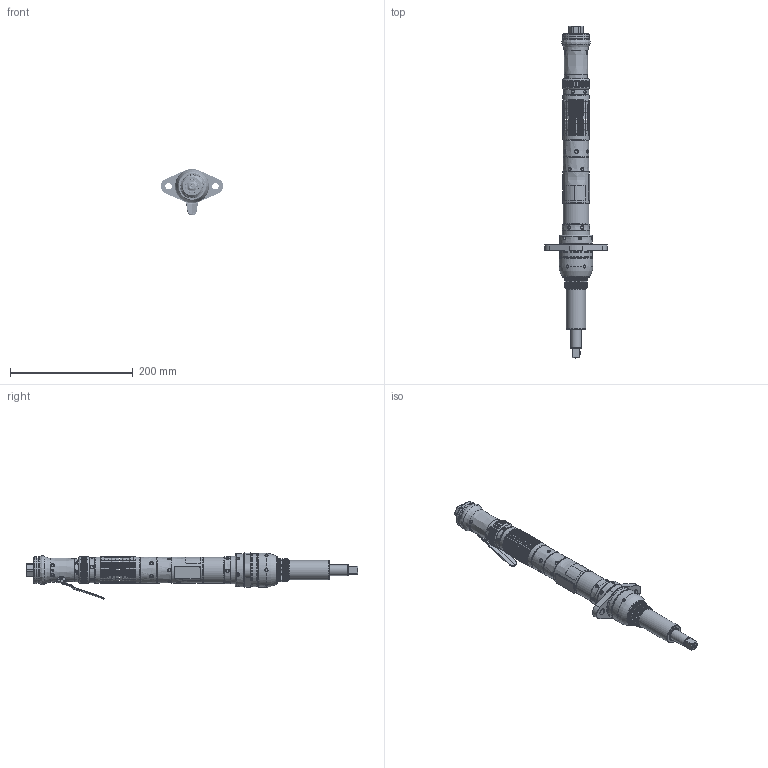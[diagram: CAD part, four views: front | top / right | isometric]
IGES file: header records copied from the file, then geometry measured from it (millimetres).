
Global section: file name: T:\siji\QA6 & QA8 MODEL\QA8 STRAIGHT SHUTOFF\45525813\45525813.igs; native system: Unigraphics Version X V2.0; preprocessor: Unigraphics NX IGES V2.0; date: 20070516.154916; units: inch
Bounding box: 101.6 x 540.9 x 74.96 mm (x, y, z)
Surface area: 103181.9 mm2 (no closed solid volume)
Topology: 0 solids, 0 shells, 1347 faces, 20920 edges, 20729 vertices
Faces by surface type: revolution 631, bspline 451, extrusion 263, offset 2
